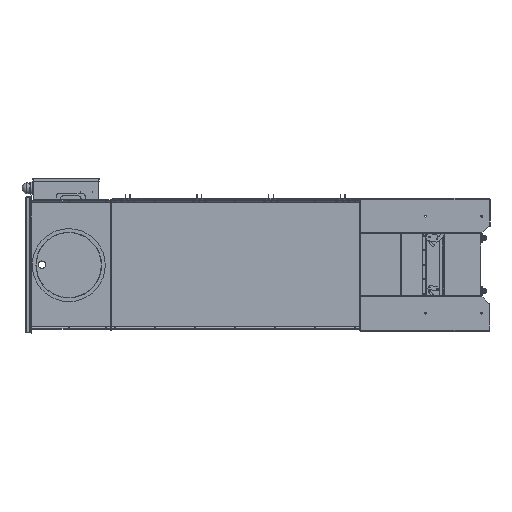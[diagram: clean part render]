
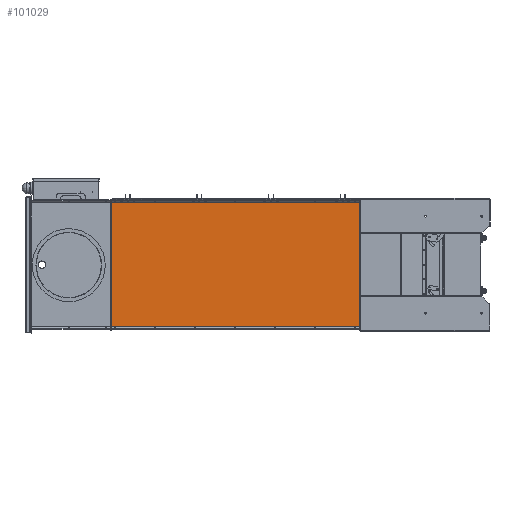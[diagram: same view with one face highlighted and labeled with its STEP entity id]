
A CAD part, left-side view. The second image highlights one B-rep face of the part: STEP entity #101029.
In plain terms, the highlighted planar face has unit normal (-1, 0, 0).
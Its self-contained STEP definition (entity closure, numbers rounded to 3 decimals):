
#8511=FACE_OUTER_BOUND('',#14577,.T.);
#14577=EDGE_LOOP('',(#85431,#85432,#85433,#85434,#85435,#85436,#85437,#85438,
#85439,#85440,#85441,#85442));
#26957=LINE('',#175742,#36243);
#26960=LINE('',#175749,#36246);
#26972=LINE('',#175776,#36258);
#26987=LINE('',#175807,#36273);
#26991=LINE('',#175817,#36277);
#27000=LINE('',#175841,#36286);
#27001=LINE('',#175845,#36287);
#27002=LINE('',#175847,#36288);
#27003=LINE('',#175849,#36289);
#27004=LINE('',#175851,#36290);
#27005=LINE('',#175853,#36291);
#27006=LINE('',#175854,#36292);
#36243=VECTOR('',#133154,1000.);
#36246=VECTOR('',#133161,1000.);
#36258=VECTOR('',#133185,1000.);
#36273=VECTOR('',#133214,1000.);
#36277=VECTOR('',#133226,1000.);
#36286=VECTOR('',#133255,1000.);
#36287=VECTOR('',#133260,1000.);
#36288=VECTOR('',#133261,1000.);
#36289=VECTOR('',#133262,1000.);
#36290=VECTOR('',#133263,1000.);
#36291=VECTOR('',#133264,1000.);
#36292=VECTOR('',#133265,1000.);
#46366=VERTEX_POINT('',#175730);
#46371=VERTEX_POINT('',#175740);
#46373=VERTEX_POINT('',#175748);
#46382=VERTEX_POINT('',#175775);
#46391=VERTEX_POINT('',#175803);
#46392=VERTEX_POINT('',#175812);
#46398=VERTEX_POINT('',#175840);
#46399=VERTEX_POINT('',#175844);
#46400=VERTEX_POINT('',#175846);
#46401=VERTEX_POINT('',#175848);
#46402=VERTEX_POINT('',#175850);
#46403=VERTEX_POINT('',#175852);
#59894=EDGE_CURVE('',#46366,#46371,#26957,.T.);
#59897=EDGE_CURVE('',#46373,#46366,#26960,.T.);
#59911=EDGE_CURVE('',#46373,#46382,#26972,.T.);
#59928=EDGE_CURVE('',#46391,#46382,#26987,.T.);
#59934=EDGE_CURVE('',#46392,#46391,#26991,.T.);
#59945=EDGE_CURVE('',#46392,#46398,#27000,.F.);
#59947=EDGE_CURVE('',#46399,#46371,#27001,.F.);
#59948=EDGE_CURVE('',#46399,#46400,#27002,.T.);
#59949=EDGE_CURVE('',#46400,#46401,#27003,.T.);
#59950=EDGE_CURVE('',#46402,#46401,#27004,.T.);
#59951=EDGE_CURVE('',#46402,#46403,#27005,.T.);
#59952=EDGE_CURVE('',#46403,#46398,#27006,.T.);
#85431=ORIENTED_EDGE('',*,*,#59945,.F.);
#85432=ORIENTED_EDGE('',*,*,#59934,.T.);
#85433=ORIENTED_EDGE('',*,*,#59928,.T.);
#85434=ORIENTED_EDGE('',*,*,#59911,.F.);
#85435=ORIENTED_EDGE('',*,*,#59897,.T.);
#85436=ORIENTED_EDGE('',*,*,#59894,.T.);
#85437=ORIENTED_EDGE('',*,*,#59947,.F.);
#85438=ORIENTED_EDGE('',*,*,#59948,.T.);
#85439=ORIENTED_EDGE('',*,*,#59949,.T.);
#85440=ORIENTED_EDGE('',*,*,#59950,.F.);
#85441=ORIENTED_EDGE('',*,*,#59951,.T.);
#85442=ORIENTED_EDGE('',*,*,#59952,.T.);
#96247=PLANE('',#109663);
#101029=ADVANCED_FACE('',(#8511),#96247,.T.);
#109663=AXIS2_PLACEMENT_3D('',#175843,#133258,#133259);
#133154=DIRECTION('',(0.,0.,1.));
#133161=DIRECTION('',(0.,1.,0.));
#133185=DIRECTION('',(0.,0.,-1.));
#133214=DIRECTION('',(0.,-1.,0.));
#133226=DIRECTION('',(0.,0.,1.));
#133255=DIRECTION('',(0.,-1.,0.));
#133258=DIRECTION('center_axis',(-1.,0.,0.));
#133259=DIRECTION('ref_axis',(0.,1.,0.));
#133260=DIRECTION('',(0.,1.,0.));
#133261=DIRECTION('',(0.,0.,-1.));
#133262=DIRECTION('',(0.,1.,0.));
#133263=DIRECTION('',(0.,0.,1.));
#133264=DIRECTION('',(0.,-1.,0.));
#133265=DIRECTION('',(0.,0.,-1.));
#175730=CARTESIAN_POINT('',(-449.754,629.062,297.139));
#175740=CARTESIAN_POINT('',(-449.754,629.062,297.452));
#175742=CARTESIAN_POINT('',(-449.754,629.062,-190.037));
#175748=CARTESIAN_POINT('',(-449.754,628.75,297.139));
#175749=CARTESIAN_POINT('',(-449.754,625.937,297.139));
#175775=CARTESIAN_POINT('',(-449.754,628.75,-297.023));
#175776=CARTESIAN_POINT('',(-449.754,628.75,-149.942));
#175803=CARTESIAN_POINT('',(-449.754,629.062,-297.023));
#175807=CARTESIAN_POINT('',(-449.754,625.937,-297.023));
#175812=CARTESIAN_POINT('',(-449.754,629.062,-297.336));
#175817=CARTESIAN_POINT('',(-449.754,629.062,109.963));
#175840=CARTESIAN_POINT('',(-449.754,1817.437,-297.336));
#175841=CARTESIAN_POINT('',(-449.754,1316.23,-297.336));
#175843=CARTESIAN_POINT('Origin',(-449.754,817.625,-149.942));
#175844=CARTESIAN_POINT('',(-449.754,1817.437,297.452));
#175845=CARTESIAN_POINT('',(-449.754,817.937,297.452));
#175846=CARTESIAN_POINT('',(-449.754,1817.437,297.139));
#175847=CARTESIAN_POINT('',(-449.754,1817.437,-190.037));
#175848=CARTESIAN_POINT('',(-449.754,1817.75,297.139));
#175849=CARTESIAN_POINT('',(-449.754,1318.937,297.139));
#175850=CARTESIAN_POINT('',(-449.754,1817.75,-297.023));
#175851=CARTESIAN_POINT('',(-449.754,1817.75,-149.942));
#175852=CARTESIAN_POINT('',(-449.754,1817.437,-297.023));
#175853=CARTESIAN_POINT('',(-449.754,1318.937,-297.023));
#175854=CARTESIAN_POINT('',(-449.754,1817.437,109.963));
